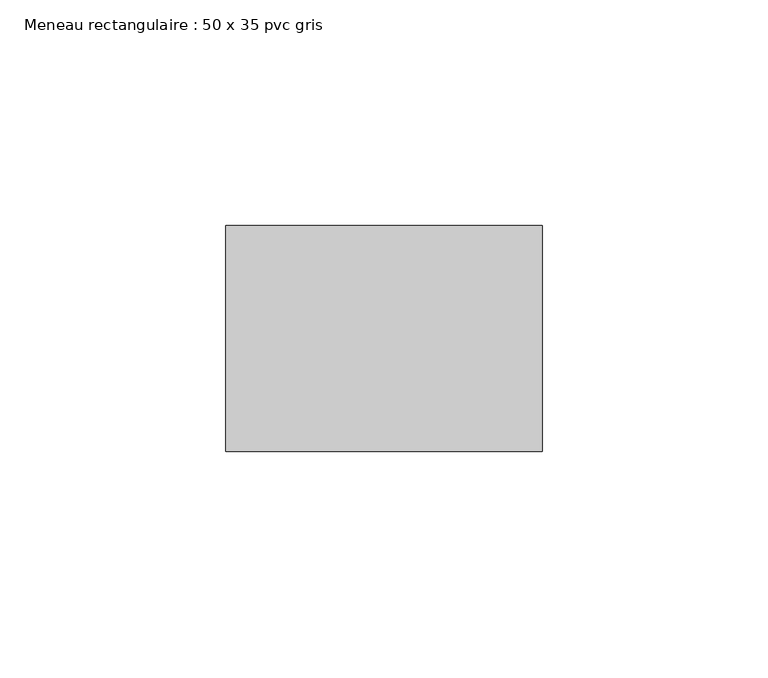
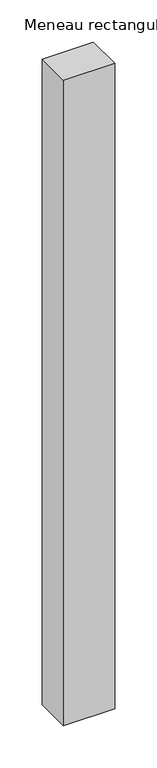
"""IFC4 building model written with IfcOpenShell, lengths in millimetres: member geometry, Meneau rectangulaire : 50 x 35 pvc gris."""

from ifc_helpers import new_model, si_unit, frame, origin, place, context, project, spatial, polyline, outline, extrude, source, transform, mapped, element, save


def meneau_rectangulaire_50_x_35_pvc_gris_a9a2c14d(model_context):
    return source(origin(), model_context, "Body", "SweptSolid", [
        extrude(outline(polyline([(35.0, 0.0), (35.0, -50.0), (-35.0, -50.0), (-35.0, 0.0), (35.0, 0.0)])), frame((0.0, 0.0, -933.0), z_axis=(0.0, 0.0, 1.0), x_axis=(1.0, 0.0, 0.0)), (0.0, 0.0, 1.0), 933.0),
    ])


if __name__ == "__main__":
    model = new_model("IFC4")
    model_context = context("Model", 3, world=origin())
    ifc_project = project(units=[si_unit("LENGTHUNIT", "METRE", prefix="MILLI")], contexts=[model_context])
    site = spatial("IfcSite", under=ifc_project)
    building = spatial("IfcBuilding", under=site)
    placement = place(None, origin())
    meneau_rectangulaire_50_x_35_pvc_gris_shape = meneau_rectangulaire_50_x_35_pvc_gris_a9a2c14d(model_context)
    element("IfcMember", 1, ObjectType="Meneau rectangulaire : 50 x 35 pvc gris", at=placement, inside=building, context=model_context, shape_type="MappedRepresentation", body=[
        mapped(meneau_rectangulaire_50_x_35_pvc_gris_shape, transform((0.0, 0.0, 0.0), x_axis=(1.0, 0.0, 0.0), y_axis=(0.0, 1.0, 0.0), z_axis=(0.0, 0.0, 1.0))),
    ])
    save(model, "model.ifc")
